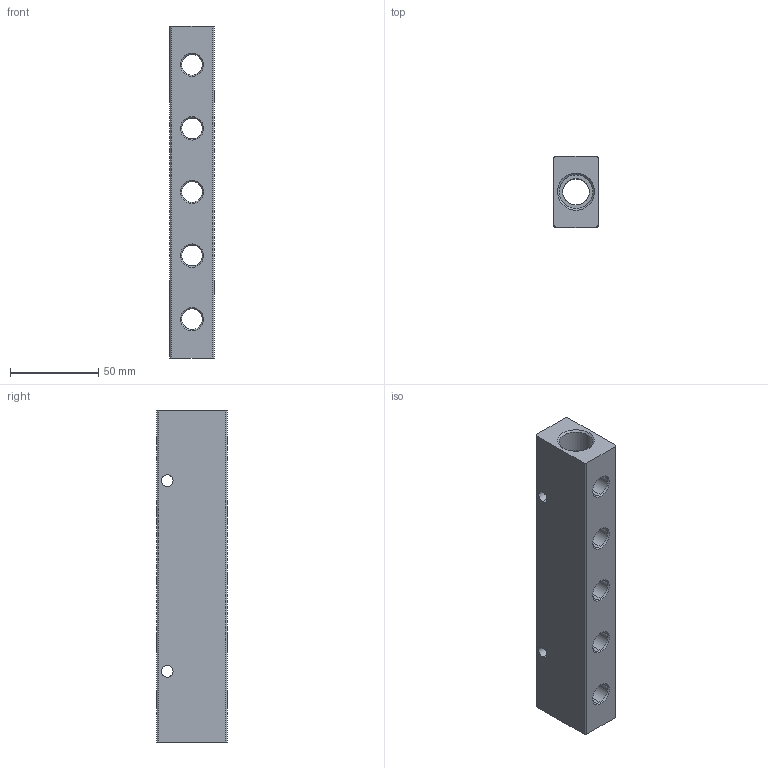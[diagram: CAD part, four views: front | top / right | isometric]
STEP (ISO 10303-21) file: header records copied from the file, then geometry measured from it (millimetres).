
FILE_DESCRIPTION (( 'STEP AP214' ), '1' );
FILE_NAME ('AU_034_1.STEP', '2016-10-11T12:42:04', ( '' ), ( '' ), 'SwSTEP 2.0', 'SolidWorks 2016', '' );
FILE_SCHEMA (( 'AUTOMOTIVE_DESIGN' ));
Length unit declared in the file: millimetre
Products named in the file (1): AU_034_1
Bounding box: 25 x 40 x 188 mm (x, y, z)
Volume: 135442.1 mm3; surface area: 38479.9 mm2
Topology: 1 solids, 1 shells, 66 faces, 162 edges, 100 vertices
Faces by surface type: cylinder 34, cone 24, plane 8
Entity records: 3116 total; most frequent: CARTESIAN_POINT 1189, DIRECTION 348, ORIENTED_EDGE 324, EDGE_CURVE 162, AXIS2_PLACEMENT_3D 139, VERTEX_POINT 100, EDGE_LOOP 94, CIRCLE 72
